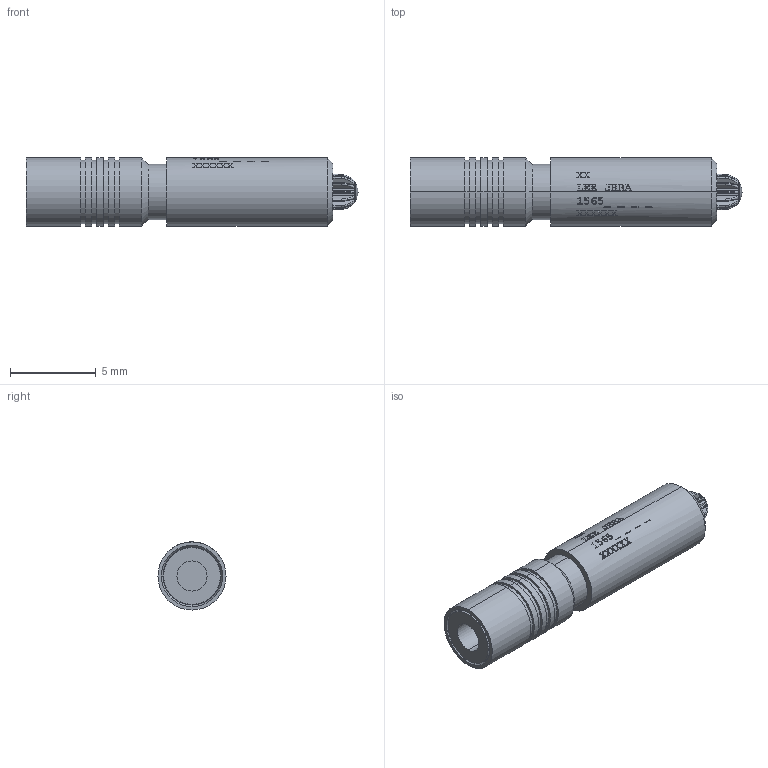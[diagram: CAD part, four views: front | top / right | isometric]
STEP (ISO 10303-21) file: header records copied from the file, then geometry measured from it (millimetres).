
FILE_DESCRIPTION (( 'STEP AP214' ), '1' );
FILE_NAME ('JHBA1565----.STEP', '2021-04-21T14:48:06', ( '' ), ( '' ), 'SwSTEP 2.0', 'SolidWorks 2019', '' );
FILE_SCHEMA (( 'AUTOMOTIVE_DESIGN' ));
Length unit declared in the file: millimetre
Products named in the file (1): JHBA1565----
Bounding box: 19.3 x 3.96 x 3.96 mm (x, y, z)
Volume: 200.2 mm3; surface area: 320.7 mm2
Topology: 1 solids, 1 shells, 752 faces, 2074 edges, 1365 vertices
Faces by surface type: bspline 393, plane 243, cylinder 71, torus 24, cone 19, sphere 2
Entity records: 36169 total; most frequent: CARTESIAN_POINT 12264, ORIENTED_EDGE 4148, EDGE_CURVE 2074, DIRECTION 1765, VERTEX_POINT 1365, B_SPLINE_CURVE_WITH_KNOTS 1319, EDGE_LOOP 793, UNCERTAINTY_MEASURE_WITH_UNIT 755
